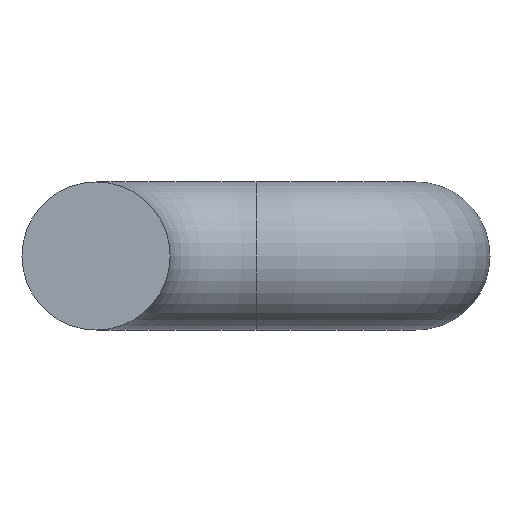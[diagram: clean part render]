
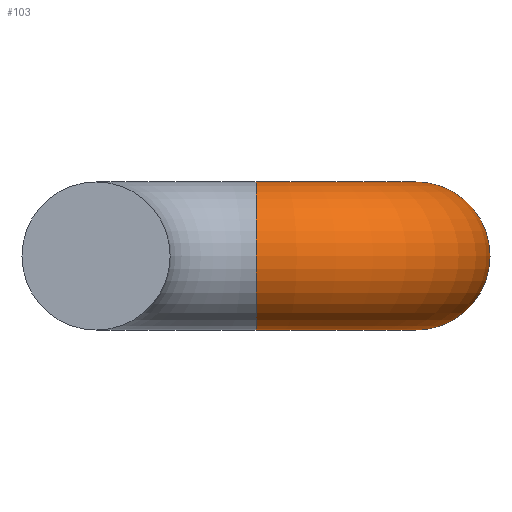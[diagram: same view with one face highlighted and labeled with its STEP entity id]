
A CAD part, front view. The second image highlights one B-rep face of the part: STEP entity #103.
In plain terms, the highlighted toroidal (fillet/blend) face has major radius 11.88 mm and minor radius 5.5 mm.
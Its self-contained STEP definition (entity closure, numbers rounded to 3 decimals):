
#24 = VERTEX_POINT('',#25);
#25 = CARTESIAN_POINT('',(36.5,-16.7,457.5));
#32 = CYLINDRICAL_SURFACE('',#33,5.5);
#33 = AXIS2_PLACEMENT_3D('',#34,#35,#36);
#34 = CARTESIAN_POINT('',(31.,-13.7,457.5));
#35 = DIRECTION('',(0.,-1.,0.));
#36 = DIRECTION('',(1.,0.,0.));
#50 = EDGE_CURVE('',#24,#24,#51,.T.);
#51 = SURFACE_CURVE('',#52,(#57,#64),.PCURVE_S1.);
#52 = CIRCLE('',#53,5.5);
#53 = AXIS2_PLACEMENT_3D('',#54,#55,#56);
#54 = CARTESIAN_POINT('',(31.,-16.7,457.5));
#55 = DIRECTION('',(0.,-1.,0.));
#56 = DIRECTION('',(1.,0.,0.));
#57 = PCURVE('',#32,#58);
#58 = DEFINITIONAL_REPRESENTATION('',(#59),#63);
#59 = LINE('',#60,#61);
#60 = CARTESIAN_POINT('',(0.,3.));
#61 = VECTOR('',#62,1.);
#62 = DIRECTION('',(1.,0.));
#63 = ( GEOMETRIC_REPRESENTATION_CONTEXT(2) 
PARAMETRIC_REPRESENTATION_CONTEXT() REPRESENTATION_CONTEXT('2D SPACE',''
  ) );
#64 = PCURVE('',#65,#70);
#65 = TOROIDAL_SURFACE('',#66,11.88,5.5);
#66 = AXIS2_PLACEMENT_3D('',#67,#68,#69);
#67 = CARTESIAN_POINT('',(19.12,-16.7,457.5));
#68 = DIRECTION('',(0.,-0.,-1.));
#69 = DIRECTION('',(1.,0.,0.));
#70 = DEFINITIONAL_REPRESENTATION('',(#71),#74);
#71 = B_SPLINE_CURVE_WITH_KNOTS('',1,(#72,#73),.UNSPECIFIED.,.F.,.F.,(2,
    2),(0.,6.283),.PIECEWISE_BEZIER_KNOTS.);
#72 = CARTESIAN_POINT('',(0.,6.283));
#73 = CARTESIAN_POINT('',(0.,0.));
#74 = ( GEOMETRIC_REPRESENTATION_CONTEXT(2) 
PARAMETRIC_REPRESENTATION_CONTEXT() REPRESENTATION_CONTEXT('2D SPACE',''
  ) );
#103 = ADVANCED_FACE('',(#104),#65,.T.);
#104 = FACE_BOUND('',#105,.T.);
#105 = EDGE_LOOP('',(#106,#129,#155,#156));
#106 = ORIENTED_EDGE('',*,*,#107,.T.);
#107 = EDGE_CURVE('',#24,#108,#110,.T.);
#108 = VERTEX_POINT('',#109);
#109 = CARTESIAN_POINT('',(19.12,-34.08,457.5));
#110 = SEAM_CURVE('',#111,(#116,#122),.PCURVE_S1.);
#111 = CIRCLE('',#112,17.38);
#112 = AXIS2_PLACEMENT_3D('',#113,#114,#115);
#113 = CARTESIAN_POINT('',(19.12,-16.7,457.5));
#114 = DIRECTION('',(0.,0.,-1.));
#115 = DIRECTION('',(1.,0.,0.));
#116 = PCURVE('',#65,#117);
#117 = DEFINITIONAL_REPRESENTATION('',(#118),#121);
#118 = B_SPLINE_CURVE_WITH_KNOTS('',1,(#119,#120),.UNSPECIFIED.,.F.,.F.,
  (2,2),(0.,1.571),.PIECEWISE_BEZIER_KNOTS.);
#119 = CARTESIAN_POINT('',(0.,0.));
#120 = CARTESIAN_POINT('',(1.571,0.));
#121 = ( GEOMETRIC_REPRESENTATION_CONTEXT(2) 
PARAMETRIC_REPRESENTATION_CONTEXT() REPRESENTATION_CONTEXT('2D SPACE',''
  ) );
#122 = PCURVE('',#65,#123);
#123 = DEFINITIONAL_REPRESENTATION('',(#124),#128);
#124 = LINE('',#125,#126);
#125 = CARTESIAN_POINT('',(0.,6.283));
#126 = VECTOR('',#127,1.);
#127 = DIRECTION('',(1.,0.));
#128 = ( GEOMETRIC_REPRESENTATION_CONTEXT(2) 
PARAMETRIC_REPRESENTATION_CONTEXT() REPRESENTATION_CONTEXT('2D SPACE',''
  ) );
#129 = ORIENTED_EDGE('',*,*,#130,.T.);
#130 = EDGE_CURVE('',#108,#108,#131,.T.);
#131 = SURFACE_CURVE('',#132,(#137,#144),.PCURVE_S1.);
#132 = CIRCLE('',#133,5.5);
#133 = AXIS2_PLACEMENT_3D('',#134,#135,#136);
#134 = CARTESIAN_POINT('',(19.12,-28.58,457.5));
#135 = DIRECTION('',(1.,0.,0.));
#136 = DIRECTION('',(0.,-1.,0.));
#137 = PCURVE('',#65,#138);
#138 = DEFINITIONAL_REPRESENTATION('',(#139),#143);
#139 = LINE('',#140,#141);
#140 = CARTESIAN_POINT('',(1.571,0.));
#141 = VECTOR('',#142,1.);
#142 = DIRECTION('',(0.,1.));
#143 = ( GEOMETRIC_REPRESENTATION_CONTEXT(2) 
PARAMETRIC_REPRESENTATION_CONTEXT() REPRESENTATION_CONTEXT('2D SPACE',''
  ) );
#144 = PCURVE('',#145,#150);
#145 = TOROIDAL_SURFACE('',#146,11.88,5.5);
#146 = AXIS2_PLACEMENT_3D('',#147,#148,#149);
#147 = CARTESIAN_POINT('',(19.12,-40.46,457.5));
#148 = DIRECTION('',(0.,0.,1.));
#149 = DIRECTION('',(0.,1.,0.));
#150 = DEFINITIONAL_REPRESENTATION('',(#151),#154);
#151 = B_SPLINE_CURVE_WITH_KNOTS('',1,(#152,#153),.UNSPECIFIED.,.F.,.F.,
  (2,2),(0.,6.283),.PIECEWISE_BEZIER_KNOTS.);
#152 = CARTESIAN_POINT('',(0.,3.142));
#153 = CARTESIAN_POINT('',(0.,9.425));
#154 = ( GEOMETRIC_REPRESENTATION_CONTEXT(2) 
PARAMETRIC_REPRESENTATION_CONTEXT() REPRESENTATION_CONTEXT('2D SPACE',''
  ) );
#155 = ORIENTED_EDGE('',*,*,#107,.F.);
#156 = ORIENTED_EDGE('',*,*,#50,.T.);
